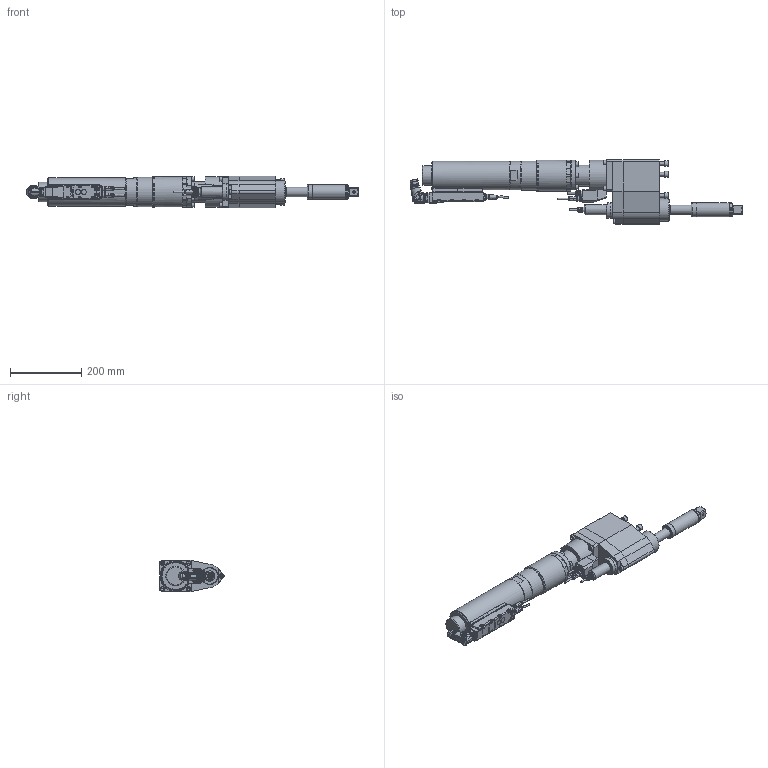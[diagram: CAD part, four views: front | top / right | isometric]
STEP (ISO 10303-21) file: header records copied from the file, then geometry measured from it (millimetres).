
FILE_DESCRIPTION (( 'STEP AP203' ), '1' );
FILE_NAME ('70082581_ESX480DRXWX800AODX460-800.STEP', '2026-03-12T12:08:41', ( '' ), ( '' ), 'SwSTEP 2.0', 'SolidWorks 2020', '' );
FILE_SCHEMA (( 'CONFIG_CONTROL_DESIGN' ));
Length unit declared in the file: millimetre
Products named in the file (11): 70057493_4; 70057493_Standard_winkel; 70082387; 70057493_3; 70057493_2; 7006176_3; 70082581_ESX480DRXWX800AODX460-800; 70210516; 70082312; 70082312_ESX480_Standard_Winkel_2; 70082293_2
Assembly tree (11 placements, depth 4):
  70082581_ESX480DRXWX800AODX460-800
    70082312_ESX480_Standard_Winkel_2
      70082312
      70057493_Standard_winkel
        70057493_2
        70057493_3
        70057493_4
      70082293_2  x2
    70082387
    7006176_3
    70210516
Bounding box: 934.76 x 180.58 x 88 mm (x, y, z)
Volume: 5175663.5 mm3; surface area: 418961.6 mm2
Topology: 13 solids, 13 shells, 2891 faces, 7479 edges, 4847 vertices
Faces by surface type: plane 1407, cylinder 760, cone 371, bspline 268, torus 81, sphere 4
Full cylindrical faces by diameter (mm): 0.5 x14, 0.57 x14, 2 x3, 3 x4, 4.2 x1, 4.9 x5, 5 x7, 5.5 x12, 6 x3, 6.8 x12, 7 x2, 8 x33, 8.459 x2, 9 x1, 9.1 x1, 10 x5, 11.08 x3, 12 x1, 12.3 x3, 13 x17, 14 x6, 14.5 x2, 16 x5, 17.4 x1, 20 x1, 21.15 x1, 21.5 x1, 21.7 x1, 22.3 x1, 24.3 x1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
Entity records: 95382 total; most frequent: CARTESIAN_POINT 32056, ORIENTED_EDGE 13294, DIRECTION 11686, EDGE_CURVE 6647, VERTEX_POINT 4505, AXIS2_PLACEMENT_3D 4334, EDGE_LOOP 3374, VECTOR 3018
